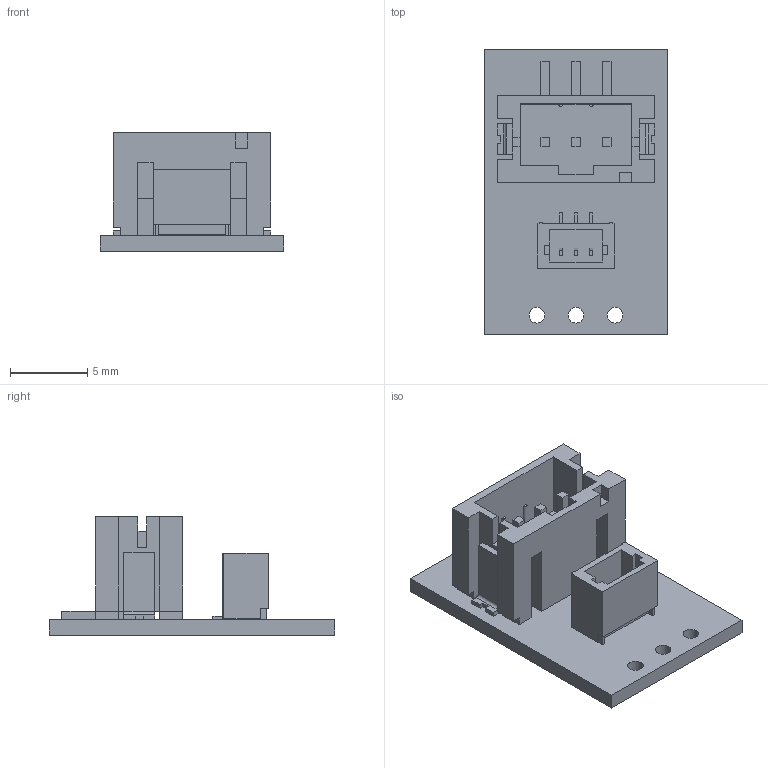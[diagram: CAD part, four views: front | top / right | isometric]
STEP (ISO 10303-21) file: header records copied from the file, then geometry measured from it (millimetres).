
FILE_DESCRIPTION (( 'STEP AP214' ), '1' );
FILE_NAME ('jst-ph-style-3-pin-top-entry.step', '2025-08-19T21:17:48', ( '' ), ( '' ), 'SwSTEP 2.0', 'SolidWorks 2025', '' );
FILE_SCHEMA (( 'AUTOMOTIVE_DESIGN' ));
Length unit declared in the file: millimetre
Products named in the file (1): jst-ph-style-3-pin-top-entry
Bounding box: 11.94 x 18.54 x 7.69 mm (x, y, z)
Volume: 466.2 mm3; surface area: 1121.7 mm2
Topology: 1 solids, 1 shells, 581 faces, 1615 edges, 1072 vertices
Faces by surface type: plane 375, bspline 194, cylinder 12
Entity records: 32147 total; most frequent: CARTESIAN_POINT 12095, ORIENTED_EDGE 3230, DIRECTION 2027, EDGE_CURVE 1615, LINE 1203, VECTOR 1203, VERTEX_POINT 1072, EDGE_LOOP 649
